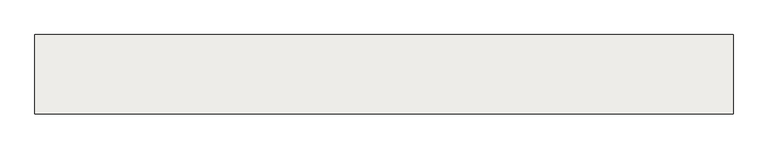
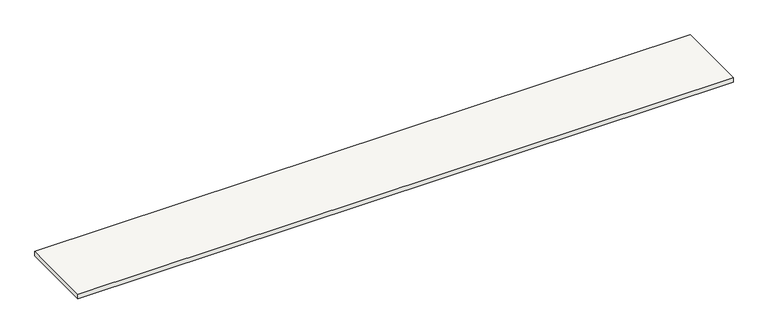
"""IFC4 building model written with IfcOpenShell, lengths in millimetres: slab geometry, Sol-02 - Tablette bois 2cm."""

from ifc_helpers import new_model, si_unit, origin, origin_with_axes, place, context, project, spatial, polyline, outline, extrude, source, transform, mapped, element, save


def slab_bad115f6(model_context):
    return source(origin(), model_context, "Body", "SweptSolid", [
        extrude(outline(polyline([(48306.9999476, 0.0), (48306.9999476, 309.0), (51024.9999479, 309.0), (51024.9999479, 0.0), (48306.9999476, 0.0)])), origin_with_axes(), (0.0, 0.0, 1.0), 20.0),
    ])


if __name__ == "__main__":
    model = new_model("IFC4")
    model_context = context("Model", 3, world=origin())
    ifc_project = project(units=[si_unit("LENGTHUNIT", "METRE", prefix="MILLI")], contexts=[model_context])
    site = spatial("IfcSite", under=ifc_project)
    building = spatial("IfcBuilding", under=site)
    placement = place(None, origin())
    slab_shape = slab_bad115f6(model_context)
    element("IfcSlab", 1, ObjectType="Sol-02 - Tablette bois 2cm", at=placement, inside=building, context=model_context, shape_type="MappedRepresentation", body=[
        mapped(slab_shape, transform((0.0, 0.0, 0.0), x_axis=(1.0, 0.0, 0.0), y_axis=(0.0, 1.0, 0.0), z_axis=(0.0, 0.0, 1.0))),
    ])
    save(model, "model.ifc")
